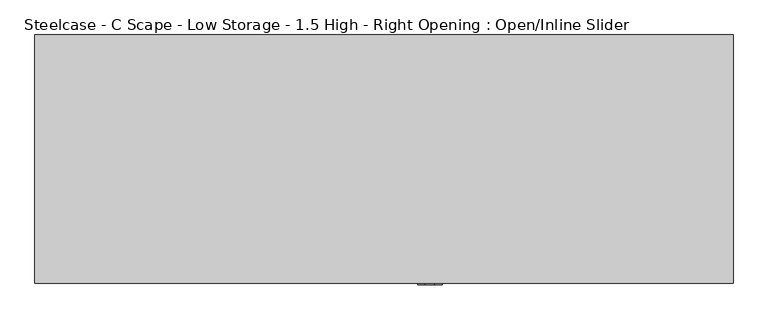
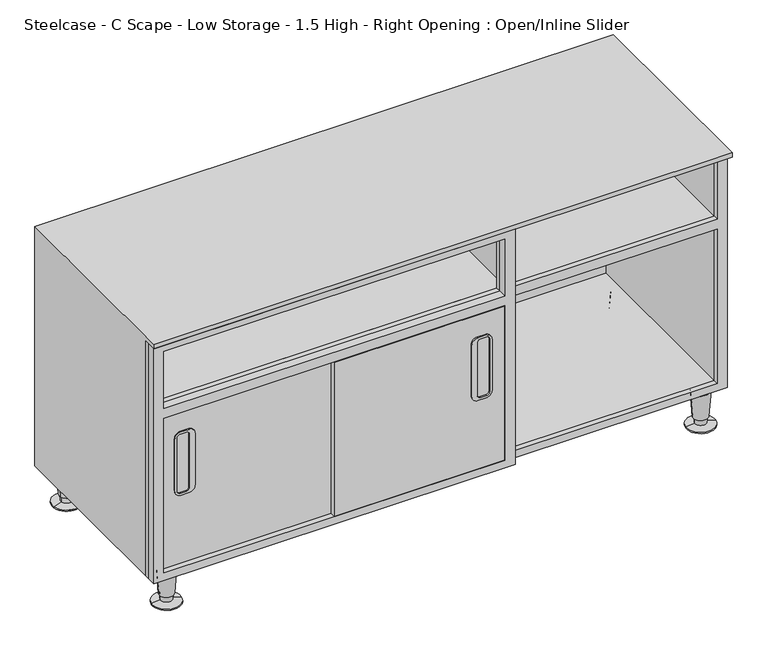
"""IFC4 building model written with IfcOpenShell, lengths in millimetres: furniture geometry, Steelcase - C Scape - Low Storage - 1.5 High - Right Opening : Open/Inline Slider."""

import ifcopenshell
import ifcopenshell.guid

model = None  # the IFC model being written
_history = None  # IfcOwnerHistory: only IFC2X3 demands one
_inside = {}  # id of a spatial element -> (the spatial element, [elements in it])
_under = {}  # id of a project, library or spatial element -> (it, [spatial elements below it])
_declared = {}  # id of a project -> (the project, [libraries it declares])
_typed = {}  # id of a type object -> (the type object, [elements of that type])
_made_of = {}  # id of a material, layer set ... -> (it, [elements and type objects made of it])


def new_model(schema):
    """Start an empty IFC model of exactly this schema.

    Asked for "IFC4X3", IfcOpenShell would pick the latest addendum, in which some entities
    have other attributes; the version numbers below select the first issue.
    IFC2X3 requires an IfcOwnerHistory on every rooted entity: one is made here for all.
    """
    global model, _history
    if schema == "IFC4X3":
        model = ifcopenshell.file(schema_version=(4, 3, 0, 0))
    else:
        model = ifcopenshell.file(schema=schema)
    _inside.clear()
    _under.clear()
    _declared.clear()
    _typed.clear()
    _made_of.clear()
    _history = None
    if model.schema == "IFC2X3":
        org = make("IfcOrganization", Name="unknown")
        user = make(
            "IfcPersonAndOrganization",
            ThePerson=make("IfcPerson", FamilyName="unknown"),
            TheOrganization=org,
        )
        app = make(
            "IfcApplication",
            ApplicationDeveloper=org,
            Version="unknown",
            ApplicationFullName="unknown",
            ApplicationIdentifier="unknown",
        )
        _history = make(
            "IfcOwnerHistory",
            OwningUser=user,
            OwningApplication=app,
            ChangeAction="ADDED",
            CreationDate=0,
        )
    return model


def make(cls, **values):
    """One entity of the class cls with the attributes given. An attribute that is None is left unset."""
    return model.create_entity(
        cls, **{name: value for name, value in values.items() if value is not None}
    )


def rooted(cls, **values):
    """An entity with a GlobalId (a new one), such as an element, a storey or a relation."""
    return make(cls, GlobalId=ifcopenshell.guid.new(), OwnerHistory=_history, **values)


def si_unit(unit_type, name, prefix=None):
    """IfcSIUnit, for example si_unit("LENGTHUNIT", "METRE", prefix="MILLI")."""
    return make("IfcSIUnit", UnitType=unit_type, Prefix=prefix, Name=name)


def assignment(units):
    """IfcUnitAssignment: the units of a project."""
    return None if units is None else make("IfcUnitAssignment", Units=units)


def point(xyz):
    """IfcCartesianPoint."""
    return None if xyz is None else make("IfcCartesianPoint", Coordinates=xyz)


def direction(xyz):
    """IfcDirection."""
    return None if xyz is None else make("IfcDirection", DirectionRatios=xyz)


def frame(location, z_axis=None, x_axis=None):
    """IfcAxis2Placement3D, a coordinate frame: its origin and axes. An axis left out is left unset."""
    return make(
        "IfcAxis2Placement3D",
        Location=point(location),
        Axis=direction(z_axis),
        RefDirection=direction(x_axis),
    )


def frame_2d(location, x_axis=None):
    """IfcAxis2Placement2D, a coordinate frame in the plane: its origin and x axis."""
    return make(
        "IfcAxis2Placement2D", Location=point(location), RefDirection=direction(x_axis)
    )


def origin():
    """The frame at (0, 0, 0) with its axes left unset."""
    return frame((0.0, 0.0, 0.0))


def place(relative_to, where):
    """IfcLocalPlacement: puts the frame where relative to a parent placement (None: the world)."""
    return make(
        "IfcLocalPlacement", PlacementRelTo=relative_to, RelativePlacement=where
    )


def context(
    kind, dimensions, precision=None, world=None, true_north=None, identifier=None
):
    """IfcGeometricRepresentationContext, for example the 3D "Model" context."""
    return make(
        "IfcGeometricRepresentationContext",
        ContextIdentifier=identifier,
        ContextType=kind,
        CoordinateSpaceDimension=dimensions,
        Precision=precision,
        WorldCoordinateSystem=world,
        TrueNorth=true_north,
    )


def project(units=None, contexts=None):
    """IfcProject with its units and contexts."""
    return rooted(
        "IfcProject",
        Name="project",
        RepresentationContexts=contexts,
        UnitsInContext=assignment(units),
    )


def spatial(cls, under=None, at=None, **own):
    """A site, building, storey or space (cls), placed at a placement, below another one or the project."""
    s = rooted(cls, ObjectPlacement=at, **own)
    if under is not None:
        _under.setdefault(under.id(), (under, []))[1].append(s)
    return s


def polyline(points):
    """IfcPolyline through the points."""
    return make("IfcPolyline", Points=[point(p) for p in points])


def circle_curve(where, radius):
    """IfcCircle in the frame where."""
    return make("IfcCircle", Position=where, Radius=radius)


def trimmed(basis, trim1, trim2, sense, master):
    """IfcTrimmedCurve: the piece of a basis curve between two trims."""
    return make(
        "IfcTrimmedCurve",
        BasisCurve=basis,
        Trim1=trim1,
        Trim2=trim2,
        SenseAgreement=sense,
        MasterRepresentation=master,
    )


def segment(curve, same_sense, transition):
    """IfcCompositeCurveSegment."""
    return make(
        "IfcCompositeCurveSegment",
        Transition=transition,
        SameSense=same_sense,
        ParentCurve=curve,
    )


def composite_curve(segments, self_intersect=None):
    """IfcCompositeCurve: segments joined end to end."""
    return make("IfcCompositeCurve", Segments=segments, SelfIntersect=self_intersect)


def outline(outer, holes=None, kind="AREA"):
    """IfcArbitraryClosedProfileDef: a profile drawn as a closed curve; with holes, ...WithVoids."""
    if holes is None:
        return make("IfcArbitraryClosedProfileDef", ProfileType=kind, OuterCurve=outer)
    return make(
        "IfcArbitraryProfileDefWithVoids",
        ProfileType=kind,
        OuterCurve=outer,
        InnerCurves=holes,
    )


def extrude(swept, where, along, depth):
    """IfcExtrudedAreaSolid: the profile swept, set in the frame where, extruded along a direction by depth."""
    return make(
        "IfcExtrudedAreaSolid",
        SweptArea=swept,
        Position=where,
        ExtrudedDirection=direction(along),
        Depth=depth,
    )


def faces_of(points, faces, orient=None, outer=None):
    """IfcFace entities. A face is a list of loops; a loop is a list of indices into points, from 0.

    orient and outer hold one flag for each loop. By default every Orientation is true, the
    first loop of a face is its IfcFaceOuterBound and the others are IfcFaceBound.
    """
    made = []
    for i, loops in enumerate(faces):
        bounds = []
        for j, loop in enumerate(loops):
            is_outer = j == 0 if outer is None else outer[i][j]
            bounds.append(
                make(
                    "IfcFaceOuterBound" if is_outer else "IfcFaceBound",
                    Bound=make("IfcPolyLoop", Polygon=[points[k] for k in loop]),
                    Orientation=True if orient is None else orient[i][j],
                )
            )
        made.append(make("IfcFace", Bounds=bounds))
    return made


def faceted_brep(points, faces, orient=None, outer=None, voids=None):
    """IfcFacetedBrep: a solid bounded by flat faces; with voids (closed shells), ...WithVoids."""
    shared = [point(p) for p in points]
    hull = make("IfcClosedShell", CfsFaces=faces_of(shared, faces, orient, outer))
    if voids is None:
        return make("IfcFacetedBrep", Outer=hull)
    return make(
        "IfcFacetedBrepWithVoids",
        Outer=hull,
        Voids=[
            make(cls, CfsFaces=faces_of(shared, fs, o, b)) for cls, fs, o, b in voids
        ],
    )


def shape(context_of_items, identifier, shape_type, items):
    """IfcShapeRepresentation: the items that make up one representation, for example the "Body"."""
    return make(
        "IfcShapeRepresentation",
        ContextOfItems=context_of_items,
        RepresentationIdentifier=identifier,
        RepresentationType=shape_type,
        Items=items,
    )


def source(mapping_origin, context_of_items, identifier, shape_type, items):
    """IfcRepresentationMap: a shape defined once, which mapped items show again and again."""
    return make(
        "IfcRepresentationMap",
        MappingOrigin=mapping_origin,
        MappedRepresentation=shape(context_of_items, identifier, shape_type, items),
    )


def transform(
    local_origin,
    x_axis=None,
    y_axis=None,
    z_axis=None,
    scale=None,
    scale2=None,
    scale3=None,
    uniform=True,
):
    """IfcCartesianTransformationOperator3D, or its non-uniform kind. x_axis, y_axis, z_axis: its Axis1, 2, 3."""
    if uniform:
        return make(
            "IfcCartesianTransformationOperator3D",
            Axis1=direction(x_axis),
            Axis2=direction(y_axis),
            LocalOrigin=point(local_origin),
            Scale=scale,
            Axis3=direction(z_axis),
        )
    return make(
        "IfcCartesianTransformationOperator3DnonUniform",
        Axis1=direction(x_axis),
        Axis2=direction(y_axis),
        LocalOrigin=point(local_origin),
        Scale=scale,
        Axis3=direction(z_axis),
        Scale2=scale2,
        Scale3=scale3,
    )


def mapped(mapping_source, mapping_target):
    """IfcMappedItem: shows the shape of a source again, moved by a transform."""
    return make(
        "IfcMappedItem", MappingSource=mapping_source, MappingTarget=mapping_target
    )


def made_of(thing, what):
    """Note that an element or type object is made of a material, layer set ...; save() writes the relation."""
    if what is not None:
        _made_of.setdefault(what.id(), (what, []))[1].append(thing)
    return thing


def element(
    cls,
    number,
    at=None,
    inside=None,
    cuts=None,
    type_object=None,
    material=None,
    context=None,
    identifier="Body",
    shape_type=None,
    held_by="IfcProductDefinitionShape",
    body=None,
    shapes=None,
    **own,
):
    """One element of the class cls, such as IfcWall. Its Tag is "e" and its number.

    at: its placement. inside: the storey or other place that contains it. cuts: it is an
    opening in that element (IfcRelVoidsElement). A single representation is given by context,
    identifier, shape_type and body (its items); several are given by shapes. held_by: the class
    of the entity that holds the representations. save() writes the other relations.
    """
    e = rooted(cls, Tag="e%d" % number, ObjectPlacement=at, **own)
    if body is not None:
        shapes = [shape(context, identifier, shape_type, body)]
    if shapes is not None:
        e.Representation = make(held_by, Representations=shapes)
    if inside is not None:
        _inside.setdefault(inside.id(), (inside, []))[1].append(e)
    if cuts is not None:
        rooted(
            "IfcRelVoidsElement", RelatingBuildingElement=cuts, RelatedOpeningElement=e
        )
    if type_object is not None:
        _typed.setdefault(type_object.id(), (type_object, []))[1].append(e)
    return made_of(e, material)


def aggregate(whole, parts):
    """IfcRelAggregates: a whole, such as a stair, and the parts it consists of."""
    return rooted("IfcRelAggregates", RelatingObject=whole, RelatedObjects=parts)


def save(model, path):
    """Write the relations noted so far, then the file.

    IfcRelAggregates (storeys below a building ...), IfcRelContainedInSpatialStructure (elements
    in a storey), IfcRelDefinesByType, IfcRelAssociatesMaterial and IfcRelDeclares: one each for
    every whole, place, type object, material and project.
    """
    for whole, parts in _under.values():
        aggregate(whole, parts)
    for where, things in _inside.values():
        rooted(
            "IfcRelContainedInSpatialStructure",
            RelatedElements=things,
            RelatingStructure=where,
        )
    for kind, things in _typed.values():
        rooted("IfcRelDefinesByType", RelatedObjects=things, RelatingType=kind)
    for what, things in _made_of.values():
        rooted("IfcRelAssociatesMaterial", RelatedObjects=things, RelatingMaterial=what)
    for by, libraries in _declared.values():
        rooted("IfcRelDeclares", RelatingContext=by, RelatedDefinitions=libraries)
    model.write(path)


def plane_surface(at):
    """IfcPlane: the flat surface through the origin of the frame at, square to its z axis."""
    return make("IfcPlane", Position=at)


def cylinder_surface(at, radius):
    """IfcCylindricalSurface: all points at the distance radius from the z axis of the frame at."""
    return make("IfcCylindricalSurface", Position=at, Radius=radius)


def revolved_surface(curve, axis_point, axis_direction):
    """IfcSurfaceOfRevolution: the curve turned about the line through axis_point along axis_direction."""
    return make(
        "IfcSurfaceOfRevolution",
        SweptCurve=make("IfcArbitraryOpenProfileDef", ProfileType="CURVE", Curve=curve),
        AxisPosition=make("IfcAxis1Placement", Location=point(axis_point), Axis=direction(axis_direction)),
    )


def advanced_brep(points, edges, surfaces, faces):
    """IfcAdvancedBrep: a solid bounded by faces that lie on surfaces and meet in shared edges.

    An edge is (start, end): straight between two places in points (the first is 0);
    or (start, end, curve); or (start, end, curve, False) where it runs against its curve.
    A face is (place in surfaces, loops), or (place, loops, False) where it looks against
    its surface's normal. A loop lists edges by number (the first is 1), with a minus sign
    where the edge is run from its end to its start. The first loop is the outer one.
    """
    corners = [point(p) for p in points]
    vertices = [make("IfcVertexPoint", VertexGeometry=c) for c in corners]
    made = []
    for start, end, *more in edges:
        made.append(
            make(
                "IfcEdgeCurve",
                EdgeStart=vertices[start],
                EdgeEnd=vertices[end],
                EdgeGeometry=more[0] if more else make("IfcPolyline", Points=[corners[start], corners[end]]),
                SameSense=more[1] if len(more) > 1 else True,
            )
        )
    hull = []
    for where, loops, *sense in faces:
        bounds = []
        for j, loop in enumerate(loops):
            ring = [make("IfcOrientedEdge", EdgeElement=made[abs(k) - 1], Orientation=k > 0) for k in loop]
            bounds.append(
                make(
                    "IfcFaceOuterBound" if j == 0 else "IfcFaceBound",
                    Bound=make("IfcEdgeLoop", EdgeList=ring),
                    Orientation=True,
                )
            )
        hull.append(make("IfcAdvancedFace", Bounds=bounds, FaceSurface=surfaces[where], SameSense=sense[0] if sense else True))
    return make("IfcAdvancedBrep", Outer=make("IfcClosedShell", CfsFaces=hull))


def steelcase_c_scape_low_storage_1_5_high_right_opening_open_bc4029a1(model_context):
    return source(origin(), model_context, "Body", "SolidModel", [
        advanced_brep(
        [(1200.2097985, -403.1210225, 0.0), (1141.9877015, -394.2130493, 0.0), (1171.09875, -398.6670359, 0.0), (1200.2097985, -403.1210225, 2.5119506), (1141.9877015, -394.2130493, 2.5119506), (1182.860915, -400.4666456, 5.7545598), (1159.336585, -396.8674262, 5.7545598), (1183.5496845, -400.5720272, 19.05), (1158.6478155, -396.7620445, 19.05), (1185.9792714, -400.9437537, 19.05), (1156.2182286, -396.3903181, 19.05), (1189.9296195, -401.5481565, 76.2), (1152.2678805, -395.7859153, 76.2), (1171.09875, -398.6670359, 76.2)],
        [
            (0, 1, circle_curve(frame((1171.09875, -398.6670359, 0.0), z_axis=(0.0, 0.0, -1.0), x_axis=(0.0, 1.0, 0.0)), 29.4498071)),
            (1, 2),
            (2, 0),
            (1, 0, circle_curve(frame((1171.09875, -398.6670359, 0.0), z_axis=(0.0, 0.0, -1.0), x_axis=(0.0, 1.0, 0.0)), 29.4498071)),
            (3, 4, circle_curve(frame((1171.09875, -398.6670359, 2.5119506), z_axis=(0.0, 0.0, -1.0), x_axis=(0.0, 1.0, 0.0)), 29.4498071)),
            (4, 1),
            (0, 3),
            (4, 3, circle_curve(frame((1171.09875, -398.6670359, 2.5119506), z_axis=(0.0, 0.0, -1.0), x_axis=(0.0, 1.0, 0.0)), 29.4498071)),
            (5, 6, circle_curve(frame((1171.09875, -398.6670359, 5.7545598), z_axis=(0.0, 0.0, -1.0), x_axis=(0.0, 1.0, 0.0)), 11.8990387)),
            (6, 4),
            (3, 5),
            (6, 5, circle_curve(frame((1171.09875, -398.6670359, 5.7545598), z_axis=(0.0, 0.0, -1.0), x_axis=(0.0, 1.0, 0.0)), 11.8990387)),
            (7, 8, circle_curve(frame((1171.09875, -398.6670359, 19.05), z_axis=(0.0, 0.0, -1.0), x_axis=(0.0, 1.0, 0.0)), 12.5958232)),
            (8, 6),
            (5, 7),
            (8, 7, circle_curve(frame((1171.09875, -398.6670359, 19.05), z_axis=(0.0, 0.0, -1.0), x_axis=(0.0, 1.0, 0.0)), 12.5958232)),
            (9, 10, circle_curve(frame((1171.09875, -398.6670359, 19.05), z_axis=(0.0, 0.0, -1.0), x_axis=(0.0, 1.0, 0.0)), 15.0536827)),
            (10, 8),
            (7, 9),
            (10, 9, circle_curve(frame((1171.09875, -398.6670359, 19.05), z_axis=(0.0, 0.0, -1.0), x_axis=(0.0, 1.0, 0.0)), 15.0536827)),
            (11, 12, circle_curve(frame((1171.09875, -398.6670359, 76.2), z_axis=(0.0, 0.0, -1.0), x_axis=(0.0, 1.0, 0.0)), 19.05)),
            (12, 10),
            (9, 11),
            (12, 11, circle_curve(frame((1171.09875, -398.6670359, 76.2), z_axis=(0.0, 0.0, -1.0), x_axis=(0.0, 1.0, 0.0)), 19.05)),
            (13, 12),
            (11, 13),
        ],
        [
            plane_surface(frame((1171.09875, -398.6670359, 0.0), z_axis=(0.0, 0.0, -1.0), x_axis=(0.0, 1.0, 0.0))),
            cylinder_surface(frame((1171.09875, -398.6670359, 25.4), z_axis=(0.0, 0.0, 1.0), x_axis=(0.0, 1.0, 0.0)), 29.4498071),
            revolved_surface(polyline([(1171.09875, -369.2172288, 2.5119506), (1171.09875, -386.7679972, 5.7545598)]), (1171.09875, -398.6670359, 25.4), (0.0, 0.0, 1.0)),
            revolved_surface(polyline([(1171.09875, -386.7679972, 5.7545598), (1171.09875, -386.0712127, 19.05)]), (1171.09875, -398.6670359, 25.4), (0.0, 0.0, 1.0)),
            plane_surface(frame((1171.09875, -398.6670359, 19.05), z_axis=(0.0, 0.0, -1.0), x_axis=(0.0, 1.0, 0.0))),
            revolved_surface(polyline([(1171.09875, -383.6133532, 19.05), (1171.09875, -379.6170359, 76.2)]), (1171.09875, -398.6670359, 25.4), (0.0, 0.0, 1.0)),
            plane_surface(frame((1171.09875, -398.6670359, 76.2), z_axis=(0.0, 0.0, 1.0), x_axis=(0.0, 1.0, 0.0))),
        ],
        [
            (0, [[1, 2, 3]]),
            (0, [[4, -3, -2]]),
            (1, [[5, 6, -1, 7]]),
            (1, [[8, -7, -4, -6]]),
            (2, [[9, 10, -5, 11]]),
            (2, [[12, -11, -8, -10]]),
            (3, [[13, 14, -9, 15]]),
            (3, [[16, -15, -12, -14]]),
            (4, [[17, 18, -13, 19]]),
            (4, [[20, -19, -16, -18]]),
            (5, [[21, 22, -17, 23]]),
            (5, [[24, -23, -20, -22]]),
            (6, [[25, -21, 26]]),
            (6, [[-26, -24, -25]]),
        ],
    ),
        advanced_brep(
        [(75.8224611, -403.1210225, 0.0), (17.6003641, -394.2130493, 0.0), (46.7114126, -398.6670359, 0.0), (75.8224611, -403.1210225, 2.5119506), (17.6003641, -394.2130493, 2.5119506), (58.4735776, -400.4666456, 5.7545598), (34.9492476, -396.8674262, 5.7545598), (59.1623471, -400.5720272, 19.05), (34.2604781, -396.7620445, 19.05), (61.5919341, -400.9437537, 19.05), (31.8308912, -396.3903181, 19.05), (65.5422821, -401.5481565, 76.2), (27.8805432, -395.7859153, 76.2), (46.7114126, -398.6670359, 76.2)],
        [
            (0, 1, circle_curve(frame((46.7114126, -398.6670359, 0.0), z_axis=(0.0, 0.0, -1.0), x_axis=(0.0, 1.0, 0.0)), 29.4498071)),
            (1, 2),
            (2, 0),
            (1, 0, circle_curve(frame((46.7114126, -398.6670359, 0.0), z_axis=(0.0, 0.0, -1.0), x_axis=(0.0, 1.0, 0.0)), 29.4498071)),
            (3, 4, circle_curve(frame((46.7114126, -398.6670359, 2.5119506), z_axis=(0.0, 0.0, -1.0), x_axis=(0.0, 1.0, 0.0)), 29.4498071)),
            (4, 1),
            (0, 3),
            (4, 3, circle_curve(frame((46.7114126, -398.6670359, 2.5119506), z_axis=(0.0, 0.0, -1.0), x_axis=(0.0, 1.0, 0.0)), 29.4498071)),
            (5, 6, circle_curve(frame((46.7114126, -398.6670359, 5.7545598), z_axis=(0.0, 0.0, -1.0), x_axis=(0.0, 1.0, 0.0)), 11.8990387)),
            (6, 4),
            (3, 5),
            (6, 5, circle_curve(frame((46.7114126, -398.6670359, 5.7545598), z_axis=(0.0, 0.0, -1.0), x_axis=(0.0, 1.0, 0.0)), 11.8990387)),
            (7, 8, circle_curve(frame((46.7114126, -398.6670359, 19.05), z_axis=(0.0, 0.0, -1.0), x_axis=(0.0, 1.0, 0.0)), 12.5958232)),
            (8, 6),
            (5, 7),
            (8, 7, circle_curve(frame((46.7114126, -398.6670359, 19.05), z_axis=(0.0, 0.0, -1.0), x_axis=(0.0, 1.0, 0.0)), 12.5958232)),
            (9, 10, circle_curve(frame((46.7114126, -398.6670359, 19.05), z_axis=(0.0, 0.0, -1.0), x_axis=(0.0, 1.0, 0.0)), 15.0536827)),
            (10, 8),
            (7, 9),
            (10, 9, circle_curve(frame((46.7114126, -398.6670359, 19.05), z_axis=(0.0, 0.0, -1.0), x_axis=(0.0, 1.0, 0.0)), 15.0536827)),
            (11, 12, circle_curve(frame((46.7114126, -398.6670359, 76.2), z_axis=(0.0, 0.0, -1.0), x_axis=(0.0, 1.0, 0.0)), 19.05)),
            (12, 10),
            (9, 11),
            (12, 11, circle_curve(frame((46.7114126, -398.6670359, 76.2), z_axis=(0.0, 0.0, -1.0), x_axis=(0.0, 1.0, 0.0)), 19.05)),
            (13, 12),
            (11, 13),
        ],
        [
            plane_surface(frame((46.7114126, -398.6670359, 0.0), z_axis=(0.0, 0.0, -1.0), x_axis=(0.0, 1.0, 0.0))),
            cylinder_surface(frame((46.7114126, -398.6670359, 25.4), z_axis=(0.0, 0.0, 1.0), x_axis=(0.0, 1.0, 0.0)), 29.4498071),
            revolved_surface(polyline([(46.7114126, -369.2172288, 2.5119506), (46.7114126, -386.7679972, 5.7545598)]), (46.7114126, -398.6670359, 25.4), (0.0, 0.0, 1.0)),
            revolved_surface(polyline([(46.7114126, -386.7679972, 5.7545598), (46.7114126, -386.0712127, 19.05)]), (46.7114126, -398.6670359, 25.4), (0.0, 0.0, 1.0)),
            plane_surface(frame((46.7114126, -398.6670359, 19.05), z_axis=(0.0, 0.0, -1.0), x_axis=(0.0, 1.0, 0.0))),
            revolved_surface(polyline([(46.7114126, -383.6133532, 19.05), (46.7114126, -379.6170359, 76.2)]), (46.7114126, -398.6670359, 25.4), (0.0, 0.0, 1.0)),
            plane_surface(frame((46.7114126, -398.6670359, 76.2), z_axis=(0.0, 0.0, 1.0), x_axis=(0.0, 1.0, 0.0))),
        ],
        [
            (0, [[1, 2, 3]]),
            (0, [[4, -3, -2]]),
            (1, [[5, 6, -1, 7]]),
            (1, [[8, -7, -4, -6]]),
            (2, [[9, 10, -5, 11]]),
            (2, [[12, -11, -8, -10]]),
            (3, [[13, 14, -9, 15]]),
            (3, [[16, -15, -12, -14]]),
            (4, [[17, 18, -13, 19]]),
            (4, [[20, -19, -16, -18]]),
            (5, [[21, 22, -17, 23]]),
            (5, [[24, -23, -20, -22]]),
            (6, [[25, -21, 26]]),
            (6, [[-26, -24, -25]]),
        ],
    ),
        extrude(outline(composite_curve([segment(trimmed(circle_curve(frame_2d((260.4424033, 680.8477152)), 12.7015503), [point((260.4424033, 668.1461649))], [point((247.740853, 680.8477152))], False, "CARTESIAN"), True, "CONTINUOUS"), segment(polyline([(247.740853, 680.8477152), (247.740853, 697.737382)]), True, "CONTINUOUS"), segment(trimmed(circle_curve(frame_2d((260.4424033, 697.737382)), 12.7015503), [point((247.740853, 697.737382))], [point((260.4424033, 710.4389323))], False, "CARTESIAN"), True, "CONTINUOUS"), segment(polyline([(260.4424033, 710.4389323), (374.7393148, 710.4389323)]), True, "CONTINUOUS"), segment(trimmed(circle_curve(frame_2d((374.7393148, 697.737382)), 12.7015503), [point((374.7393148, 710.4389323))], [point((387.4408651, 697.737382))], False, "CARTESIAN"), True, "CONTINUOUS"), segment(polyline([(387.4408651, 697.737382), (387.4408651, 680.8477152)]), True, "CONTINUOUS"), segment(trimmed(circle_curve(frame_2d((374.7393148, 680.8477152)), 12.7015503), [point((387.4408651, 680.8477152))], [point((374.7393148, 668.1461649))], False, "CARTESIAN"), True, "CONTINUOUS"), segment(polyline([(374.7393148, 668.1461649), (260.4424033, 668.1461649)]), True, "CONTINUOUS")], self_intersect=False), holes=[composite_curve([segment(trimmed(circle_curve(frame_2d((376.2390416, 686.56132)), 6.3484497), [point((376.2390416, 680.2128702))], [point((382.5874913, 686.56132))], True, "CARTESIAN"), True, "CONTINUOUS"), segment(polyline([(382.5874913, 686.56132), (382.5874913, 699.2628702)]), True, "CONTINUOUS"), segment(trimmed(circle_curve(frame_2d((376.2390416, 699.2628702)), 6.3484497), [point((382.5874913, 699.2628702))], [point((376.2390416, 705.61132))], True, "CARTESIAN"), True, "CONTINUOUS"), segment(polyline([(376.2390416, 705.61132), (258.8895002, 705.61132)]), True, "CONTINUOUS"), segment(trimmed(circle_curve(frame_2d((258.8895002, 699.261326)), 6.3499939), [point((258.8895002, 705.61132))], [point((252.5395063, 699.261326))], True, "CARTESIAN"), True, "CONTINUOUS"), segment(polyline([(252.5395063, 699.261326), (252.5395063, 686.56132)]), True, "CONTINUOUS"), segment(trimmed(circle_curve(frame_2d((258.887956, 686.56132)), 6.3484497), [point((252.5395063, 686.56132))], [point((258.887956, 680.2128702))], True, "CARTESIAN"), True, "CONTINUOUS"), segment(polyline([(258.887956, 680.2128702), (376.2390416, 680.2128702)]), True, "CONTINUOUS")], self_intersect=False)]), frame((0.0, -436.1181141, 0.0), z_axis=(0.0, 1.0, 0.0), x_axis=(0.0, 0.0, 1.0)), (0.0, 0.0, 1.0), 3.0481141),
        extrude(outline(polyline([(599.44, 0.0), (76.2, 0.0), (76.2, 760.73), (599.44, 760.73), (599.44, 0.0)]), holes=[polyline([(436.9435121, 21.3256814), (436.9435121, 738.5047189), (92.7100024, 738.5047189), (92.7100024, 21.3256814), (436.9435121, 21.3256814)]), polyline([(585.724, 21.3382324), (585.724, 738.5047189), (458.7875121, 738.5047189), (458.7875121, 21.3382324), (585.724, 21.3382324)])]), frame((0.0, -433.07, 0.0), z_axis=(0.0, 1.0, 0.0), x_axis=(0.0, 0.0, 1.0)), (0.0, 0.0, 1.0), 17.7787598),
        extrude(outline(polyline([(599.44, 1217.93), (599.44, 0.0), (76.2, 0.0), (76.2, 1217.93), (599.44, 1217.93)]), holes=[polyline([(436.9435121, 21.3256814), (436.9435121, 738.5047189), (92.7100024, 738.5047189), (92.7100024, 21.3256814), (436.9435121, 21.3256814)]), polyline([(92.7100024, 1196.5961479), (92.7100024, 761.365), (436.9435121, 761.365), (436.9435121, 1196.5961479), (92.7100024, 1196.5961479)]), polyline([(585.724, 1196.5961479), (458.7875121, 1196.5961479), (458.7875121, 761.365), (585.724, 761.365), (585.724, 1196.5961479)]), polyline([(585.724, 21.3382324), (585.724, 738.5047189), (458.7875121, 738.5047189), (458.7875121, 21.3382324), (585.724, 21.3382324)])]), frame((0.0, -415.2912402, 0.0), z_axis=(0.0, 1.0, 0.0), x_axis=(0.0, 0.0, 1.0)), (0.0, 0.0, 1.0), 10.9228992),
        advanced_brep(
        [(1189.9296195, -31.5218435, 76.2), (1152.2678805, -37.2840847, 76.2), (1171.09875, -34.4029641, 76.2), (1185.9792714, -32.1262463, 19.05), (1156.2182286, -36.6796819, 19.05), (1183.5496845, -32.4979728, 19.05), (1158.6478155, -36.3079555, 19.05), (1182.860915, -32.6033544, 5.7545598), (1159.336585, -36.2025738, 5.7545598), (1200.2097985, -29.9489775, 2.5119506), (1141.9877015, -38.8569507, 2.5119506), (1200.2097985, -29.9489775, 0.0), (1141.9877015, -38.8569507, 0.0), (1171.09875, -34.4029641, 0.0)],
        [
            (0, 1, circle_curve(frame((1171.09875, -34.4029641, 76.2), z_axis=(0.0, 0.0, 1.0), x_axis=(0.0, -1.0, 0.0)), 19.05)),
            (1, 2),
            (2, 0),
            (1, 0, circle_curve(frame((1171.09875, -34.4029641, 76.2), z_axis=(0.0, 0.0, 1.0), x_axis=(0.0, -1.0, 0.0)), 19.05)),
            (3, 4, circle_curve(frame((1171.09875, -34.4029641, 19.05), z_axis=(0.0, 0.0, 1.0), x_axis=(0.0, -1.0, 0.0)), 15.0536827)),
            (4, 1),
            (0, 3),
            (4, 3, circle_curve(frame((1171.09875, -34.4029641, 19.05), z_axis=(0.0, 0.0, 1.0), x_axis=(0.0, -1.0, 0.0)), 15.0536827)),
            (5, 6, circle_curve(frame((1171.09875, -34.4029641, 19.05), z_axis=(0.0, 0.0, 1.0), x_axis=(0.0, -1.0, 0.0)), 12.5958232)),
            (6, 4),
            (3, 5),
            (6, 5, circle_curve(frame((1171.09875, -34.4029641, 19.05), z_axis=(0.0, 0.0, 1.0), x_axis=(0.0, -1.0, 0.0)), 12.5958232)),
            (7, 8, circle_curve(frame((1171.09875, -34.4029641, 5.7545598), z_axis=(0.0, 0.0, 1.0), x_axis=(0.0, -1.0, 0.0)), 11.8990387)),
            (8, 6),
            (5, 7),
            (8, 7, circle_curve(frame((1171.09875, -34.4029641, 5.7545598), z_axis=(0.0, 0.0, 1.0), x_axis=(0.0, -1.0, 0.0)), 11.8990387)),
            (9, 10, circle_curve(frame((1171.09875, -34.4029641, 2.5119506), z_axis=(0.0, 0.0, 1.0), x_axis=(0.0, -1.0, 0.0)), 29.4498071)),
            (10, 8),
            (7, 9),
            (10, 9, circle_curve(frame((1171.09875, -34.4029641, 2.5119506), z_axis=(0.0, 0.0, 1.0), x_axis=(0.0, -1.0, 0.0)), 29.4498071)),
            (11, 12, circle_curve(frame((1171.09875, -34.4029641, 0.0), z_axis=(0.0, 0.0, 1.0), x_axis=(0.0, -1.0, 0.0)), 29.4498071)),
            (12, 10),
            (9, 11),
            (12, 11, circle_curve(frame((1171.09875, -34.4029641, 0.0), z_axis=(0.0, 0.0, 1.0), x_axis=(0.0, -1.0, 0.0)), 29.4498071)),
            (13, 12),
            (11, 13),
        ],
        [
            plane_surface(frame((1171.09875, -34.4029641, 76.2), z_axis=(0.0, 0.0, 1.0), x_axis=(0.0, -1.0, 0.0))),
            revolved_surface(polyline([(1171.09875, -53.4529641, 76.2), (1171.09875, -49.4566468, 19.05)]), (1171.09875, -34.4029641, 25.4), (0.0, 0.0, -1.0)),
            plane_surface(frame((1171.09875, -34.4029641, 19.05), z_axis=(0.0, 0.0, -1.0), x_axis=(0.0, -1.0, 0.0))),
            revolved_surface(polyline([(1171.09875, -46.9987873, 19.05), (1171.09875, -46.3020028, 5.7545598)]), (1171.09875, -34.4029641, 25.4), (0.0, 0.0, -1.0)),
            revolved_surface(polyline([(1171.09875, -46.3020028, 5.7545598), (1171.09875, -63.8527712, 2.5119506)]), (1171.09875, -34.4029641, 25.4), (0.0, 0.0, -1.0)),
            cylinder_surface(frame((1171.09875, -34.4029641, 25.4), z_axis=(0.0, 0.0, -1.0), x_axis=(0.0, -1.0, 0.0)), 29.4498071),
            plane_surface(frame((1171.09875, -34.4029641, 0.0), z_axis=(0.0, 0.0, -1.0), x_axis=(0.0, -1.0, 0.0))),
        ],
        [
            (0, [[1, 2, 3]]),
            (0, [[4, -3, -2]]),
            (1, [[5, 6, -1, 7]]),
            (1, [[8, -7, -4, -6]]),
            (2, [[9, 10, -5, 11]]),
            (2, [[12, -11, -8, -10]]),
            (3, [[13, 14, -9, 15]]),
            (3, [[16, -15, -12, -14]]),
            (4, [[17, 18, -13, 19]]),
            (4, [[20, -19, -16, -18]]),
            (5, [[21, 22, -17, 23]]),
            (5, [[24, -23, -20, -22]]),
            (6, [[25, -21, 26]]),
            (6, [[-26, -24, -25]]),
        ],
    ),
        advanced_brep(
        [(65.5422821, -31.5218435, 76.2), (27.8805432, -37.2840847, 76.2), (46.7114126, -34.4029641, 76.2), (61.5919341, -32.1262463, 19.05), (31.8308912, -36.6796819, 19.05), (59.1623471, -32.4979728, 19.05), (34.2604781, -36.3079555, 19.05), (58.4735776, -32.6033544, 5.7545598), (34.9492476, -36.2025738, 5.7545598), (75.8224611, -29.9489775, 2.5119506), (17.6003641, -38.8569507, 2.5119506), (75.8224611, -29.9489775, 0.0), (17.6003641, -38.8569507, 0.0), (46.7114126, -34.4029641, 0.0)],
        [
            (0, 1, circle_curve(frame((46.7114126, -34.4029641, 76.2), z_axis=(0.0, 0.0, 1.0), x_axis=(0.0, -1.0, 0.0)), 19.05)),
            (1, 2),
            (2, 0),
            (1, 0, circle_curve(frame((46.7114126, -34.4029641, 76.2), z_axis=(0.0, 0.0, 1.0), x_axis=(0.0, -1.0, 0.0)), 19.05)),
            (3, 4, circle_curve(frame((46.7114126, -34.4029641, 19.05), z_axis=(0.0, 0.0, 1.0), x_axis=(0.0, -1.0, 0.0)), 15.0536827)),
            (4, 1),
            (0, 3),
            (4, 3, circle_curve(frame((46.7114126, -34.4029641, 19.05), z_axis=(0.0, 0.0, 1.0), x_axis=(0.0, -1.0, 0.0)), 15.0536827)),
            (5, 6, circle_curve(frame((46.7114126, -34.4029641, 19.05), z_axis=(0.0, 0.0, 1.0), x_axis=(0.0, -1.0, 0.0)), 12.5958232)),
            (6, 4),
            (3, 5),
            (6, 5, circle_curve(frame((46.7114126, -34.4029641, 19.05), z_axis=(0.0, 0.0, 1.0), x_axis=(0.0, -1.0, 0.0)), 12.5958232)),
            (7, 8, circle_curve(frame((46.7114126, -34.4029641, 5.7545598), z_axis=(0.0, 0.0, 1.0), x_axis=(0.0, -1.0, 0.0)), 11.8990387)),
            (8, 6),
            (5, 7),
            (8, 7, circle_curve(frame((46.7114126, -34.4029641, 5.7545598), z_axis=(0.0, 0.0, 1.0), x_axis=(0.0, -1.0, 0.0)), 11.8990387)),
            (9, 10, circle_curve(frame((46.7114126, -34.4029641, 2.5119506), z_axis=(0.0, 0.0, 1.0), x_axis=(0.0, -1.0, 0.0)), 29.4498071)),
            (10, 8),
            (7, 9),
            (10, 9, circle_curve(frame((46.7114126, -34.4029641, 2.5119506), z_axis=(0.0, 0.0, 1.0), x_axis=(0.0, -1.0, 0.0)), 29.4498071)),
            (11, 12, circle_curve(frame((46.7114126, -34.4029641, 0.0), z_axis=(0.0, 0.0, 1.0), x_axis=(0.0, -1.0, 0.0)), 29.4498071)),
            (12, 10),
            (9, 11),
            (12, 11, circle_curve(frame((46.7114126, -34.4029641, 0.0), z_axis=(0.0, 0.0, 1.0), x_axis=(0.0, -1.0, 0.0)), 29.4498071)),
            (13, 12),
            (11, 13),
        ],
        [
            plane_surface(frame((46.7114126, -34.4029641, 76.2), z_axis=(0.0, 0.0, 1.0), x_axis=(0.0, -1.0, 0.0))),
            revolved_surface(polyline([(46.7114126, -53.4529641, 76.2), (46.7114126, -49.4566468, 19.05)]), (46.7114126, -34.4029641, 25.4), (0.0, 0.0, -1.0)),
            plane_surface(frame((46.7114126, -34.4029641, 19.05), z_axis=(0.0, 0.0, -1.0), x_axis=(0.0, -1.0, 0.0))),
            revolved_surface(polyline([(46.7114126, -46.9987873, 19.05), (46.7114126, -46.3020028, 5.7545598)]), (46.7114126, -34.4029641, 25.4), (0.0, 0.0, -1.0)),
            revolved_surface(polyline([(46.7114126, -46.3020028, 5.7545598), (46.7114126, -63.8527712, 2.5119506)]), (46.7114126, -34.4029641, 25.4), (0.0, 0.0, -1.0)),
            cylinder_surface(frame((46.7114126, -34.4029641, 25.4), z_axis=(0.0, 0.0, -1.0), x_axis=(0.0, -1.0, 0.0)), 29.4498071),
            plane_surface(frame((46.7114126, -34.4029641, 0.0), z_axis=(0.0, 0.0, -1.0), x_axis=(0.0, -1.0, 0.0))),
        ],
        [
            (0, [[1, 2, 3]]),
            (0, [[4, -3, -2]]),
            (1, [[5, 6, -1, 7]]),
            (1, [[8, -7, -4, -6]]),
            (2, [[9, 10, -5, 11]]),
            (2, [[12, -11, -8, -10]]),
            (3, [[13, 14, -9, 15]]),
            (3, [[16, -15, -12, -14]]),
            (4, [[17, 18, -13, 19]]),
            (4, [[20, -19, -16, -18]]),
            (5, [[21, 22, -17, 23]]),
            (5, [[24, -23, -20, -22]]),
            (6, [[25, -21, 26]]),
            (6, [[-26, -24, -25]]),
        ],
    ),
        faceted_brep([(0.0, 0.0, 609.6), (1217.93, 0.0, 609.6), (1217.93, 0.0, 76.2), (0.0, 0.0, 76.2), (0.0, -433.07, 609.6), (0.0, -404.3683411, 76.2), (0.0, -404.3683411, 599.44), (0.0, -433.07, 599.44), (21.3382324, -404.3683411, 599.44), (1217.93, -404.3683411, 76.2), (1217.93, -404.3683411, 599.44), (1196.5961479, -404.3683411, 599.44), (1196.5961479, -404.3683411, 458.7875121), (760.73, -404.3683411, 458.7875121), (760.73, -404.3683411, 599.44), (754.3812797, -404.3683411, 599.44), (754.3812797, -404.3683411, 458.7875121), (21.3382324, -404.3683411, 458.7875121), (1196.5961479, -404.3683411, 450.8499879), (1196.5961479, -404.3683411, 92.7100024), (760.73, -404.3683411, 92.7100024), (760.73, -404.3683411, 450.8499879), (754.3812797, -404.3683411, 450.8499879), (754.3812797, -404.3683411, 92.7100024), (21.3382324, -404.3683411, 92.7100024), (21.3382324, -404.3683411, 450.8499879), (21.3382324, -9.525, 599.44), (21.3382324, -9.525, 458.7875121), (21.3382324, -9.525, 92.7100024), (21.3382324, -9.525, 450.8499879), (754.3812797, -9.525, 599.44), (754.3812797, -9.525, 458.7875121), (754.3812797, -9.525, 92.7100024), (754.3812797, -9.525, 450.8499879), (760.73, -9.525, 599.44), (760.73, -9.525, 458.7875121), (760.73, -9.525, 92.7100024), (760.73, -9.525, 450.8499879), (1196.5961479, -9.525, 599.44), (1196.5961479, -9.525, 458.7875121), (1196.5961479, -9.525, 92.7100024), (1196.5961479, -9.525, 450.8499879), (1217.93, -433.07, 609.6), (1217.93, -433.07, 599.44)], [[[0, 1, 2, 3]], [[4, 0, 3, 5, 6, 7]], [[8, 6, 5, 9, 10, 11, 12, 13, 14, 15, 16, 17], [18, 19, 20, 21], [22, 23, 24, 25]], [[26, 8, 17, 27]], [[25, 24, 28, 29]], [[30, 26, 27, 31]], [[29, 28, 32, 33]], [[15, 30, 31, 16]], [[33, 32, 23, 22]], [[34, 14, 13, 35]], [[21, 20, 36, 37]], [[38, 34, 35, 39]], [[37, 36, 40, 41]], [[11, 38, 39, 12]], [[41, 40, 19, 18]], [[2, 1, 42, 43, 10, 9]], [[1, 0, 4, 42]], [[43, 7, 6, 8, 26, 30, 15, 14, 34, 38, 11, 10]], [[42, 4, 7, 43]], [[13, 12, 39, 35]], [[17, 16, 31, 27]], [[18, 21, 37, 41]], [[22, 25, 29, 33]], [[20, 19, 40, 36]], [[24, 23, 32, 28]], [[2, 9, 5, 3]]]),
        extrude(outline(polyline([(380.0475, -421.6443408), (738.5047189, -421.6443408), (738.5047189, -433.07), (380.0475, -433.07), (380.0475, -421.6443408)])), frame((0.0, 0.0, 92.7100024), z_axis=(0.0, 0.0, 1.0), x_axis=(1.0, 0.0, 0.0)), (0.0, 0.0, 1.0), 343.0905044),
        extrude(outline(polyline([(380.0475, -415.2912402), (380.0475, -421.6443408), (21.3382324, -421.6443408), (21.3382324, -415.2912402), (380.0475, -415.2912402)])), frame((0.0, 0.0, 92.7100024), z_axis=(0.0, 0.0, 1.0), x_axis=(1.0, 0.0, 0.0)), (0.0, 0.0, 1.0), 358.1399855),
        extrude(outline(composite_curve([segment(polyline([(259.2993979, 91.9488351), (374.7393148, 91.9488351)]), True, "CONTINUOUS"), segment(trimmed(circle_curve(frame_2d((374.7393148, 79.2472848)), 12.7015503), [point((374.7393148, 91.9488351))], [point((387.4408651, 79.2472848))], False, "CARTESIAN"), True, "CONTINUOUS"), segment(polyline([(387.4408651, 79.2472848), (387.4408651, 62.357618)]), True, "CONTINUOUS"), segment(trimmed(circle_curve(frame_2d((374.7393148, 62.357618)), 12.7015503), [point((387.4408651, 62.357618))], [point((374.7393148, 49.6560677))], False, "CARTESIAN"), True, "CONTINUOUS"), segment(polyline([(374.7393148, 49.6560677), (259.2993979, 49.6560677)]), True, "CONTINUOUS"), segment(trimmed(circle_curve(frame_2d((259.2993979, 62.357618)), 12.7015503), [point((259.2993979, 49.6560677))], [point((246.5978477, 62.357618))], False, "CARTESIAN"), True, "CONTINUOUS"), segment(polyline([(246.5978477, 62.357618), (246.5978477, 79.2472848)]), True, "CONTINUOUS"), segment(trimmed(circle_curve(frame_2d((259.2993979, 79.2472848)), 12.7015503), [point((246.5978477, 79.2472848))], [point((259.2993979, 91.9488351))], False, "CARTESIAN"), True, "CONTINUOUS")], self_intersect=False), holes=[composite_curve([segment(polyline([(376.2390416, 79.8821298), (257.7449507, 79.8821298)]), True, "CONTINUOUS"), segment(trimmed(circle_curve(frame_2d((257.7449507, 73.53368)), 6.3484497), [point((257.7449507, 79.8821298))], [point((251.396501, 73.53368))], True, "CARTESIAN"), True, "CONTINUOUS"), segment(polyline([(251.396501, 73.53368), (251.396501, 60.833674)]), True, "CONTINUOUS"), segment(trimmed(circle_curve(frame_2d((257.7464949, 60.833674)), 6.3499939), [point((251.396501, 60.833674))], [point((257.7464949, 54.48368))], True, "CARTESIAN"), True, "CONTINUOUS"), segment(polyline([(257.7464949, 54.48368), (376.2390416, 54.48368)]), True, "CONTINUOUS"), segment(trimmed(circle_curve(frame_2d((376.2390416, 60.8321298)), 6.3484497), [point((376.2390416, 54.48368))], [point((382.5874913, 60.8321298))], True, "CARTESIAN"), True, "CONTINUOUS"), segment(polyline([(382.5874913, 60.8321298), (382.5874913, 73.53368)]), True, "CONTINUOUS"), segment(trimmed(circle_curve(frame_2d((376.2390416, 73.53368)), 6.3484497), [point((382.5874913, 73.53368))], [point((376.2390416, 79.8821298))], True, "CARTESIAN"), True, "CONTINUOUS")], self_intersect=False)]), frame((0.0, -424.6357169, 0.0), z_axis=(0.0, 1.0, 0.0), x_axis=(0.0, 0.0, 1.0)), (0.0, 0.0, 1.0), 2.9913761),
    ])


if __name__ == "__main__":
    model = new_model("IFC4")
    model_context = context("Model", 3, world=origin())
    ifc_project = project(units=[si_unit("LENGTHUNIT", "METRE", prefix="MILLI")], contexts=[model_context])
    site = spatial("IfcSite", under=ifc_project)
    building = spatial("IfcBuilding", under=site)
    placement = place(None, origin())
    steelcase_c_scape_low_storage_1_5_high_right_opening_open_shape = steelcase_c_scape_low_storage_1_5_high_right_opening_open_bc4029a1(model_context)
    element("IfcFurniture", 1, ObjectType="Steelcase - C Scape - Low Storage - 1.5 High - Right Opening : Open/Inline Slider", at=placement, inside=building, context=model_context, shape_type="MappedRepresentation", body=[
        mapped(steelcase_c_scape_low_storage_1_5_high_right_opening_open_shape, transform((0.0, 0.0, 0.0), x_axis=(1.0, 0.0, 0.0), y_axis=(0.0, 1.0, 0.0), z_axis=(0.0, 0.0, 1.0))),
    ])
    save(model, "model.ifc")
